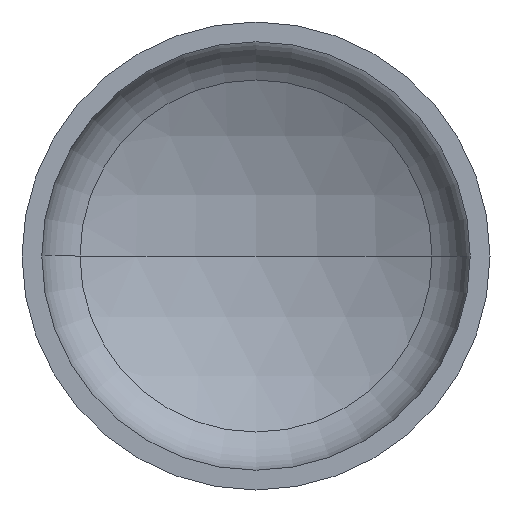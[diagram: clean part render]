
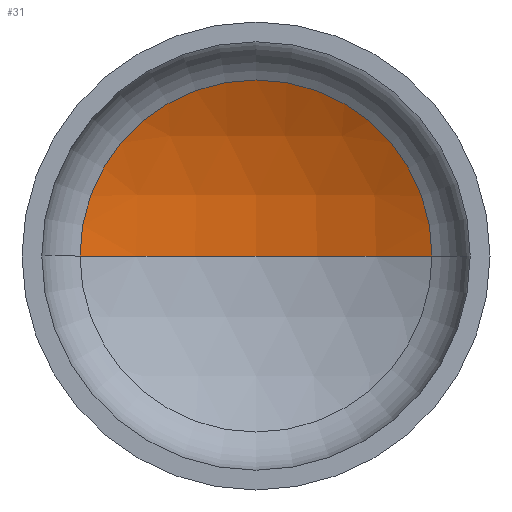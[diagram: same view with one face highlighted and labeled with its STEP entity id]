
A CAD part, front view. The second image highlights one B-rep face of the part: STEP entity #31.
In plain terms, the highlighted spherical face has radius 2080 mm.
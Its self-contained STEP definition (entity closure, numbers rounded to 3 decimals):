
#1 = AXIS2_PLACEMENT_3D ( 'NONE', #179, #403, #287 ) ;
#3 = EDGE_LOOP ( 'NONE', ( #115, #104, #50 ) ) ;
#5 = DIRECTION ( 'NONE',  ( 0., -1., 0. ) ) ;
#20 = DIRECTION ( 'NONE',  ( 0., 0., -1. ) ) ;
#25 = CARTESIAN_POINT ( 'NONE',  ( 0., -1407.667, 0. ) ) ;
#28 = AXIS2_PLACEMENT_3D ( 'NONE', #25, #20, #223 ) ;
#29 = AXIS2_PLACEMENT_3D ( 'NONE', #228, #5, #285 ) ;
#31 = ADVANCED_FACE ( 'NONE', ( #256 ), #201, .F. ) ;
#50 = ORIENTED_EDGE ( 'NONE', *, *, #83, .T. ) ;
#57 = AXIS2_PLACEMENT_3D ( 'NONE', #266, #370, #296 ) ;
#73 = VERTEX_POINT ( 'NONE', #339 ) ;
#83 = EDGE_CURVE ( 'NONE', #126, #323, #367, .T. ) ;
#85 = EDGE_CURVE ( 'NONE', #73, #126, #293, .T. ) ;
#104 = ORIENTED_EDGE ( 'NONE', *, *, #85, .T. ) ;
#115 = ORIENTED_EDGE ( 'NONE', *, *, #346, .F. ) ;
#126 = VERTEX_POINT ( 'NONE', #209 ) ;
#167 = CARTESIAN_POINT ( 'NONE',  ( -978.095, 428.016, 0. ) ) ;
#179 = CARTESIAN_POINT ( 'NONE',  ( 0., -1407.667, 0. ) ) ;
#201 = SPHERICAL_SURFACE ( 'NONE', #57, 2080. ) ;
#209 = CARTESIAN_POINT ( 'NONE',  ( 978.095, 428.016, 0. ) ) ;
#223 = DIRECTION ( 'NONE',  ( -1., 0., 0. ) ) ;
#228 = CARTESIAN_POINT ( 'NONE',  ( 0., 428.016, 0. ) ) ;
#256 = FACE_OUTER_BOUND ( 'NONE', #3, .T. ) ;
#266 = CARTESIAN_POINT ( 'NONE',  ( 0., -1407.667, 0. ) ) ;
#285 = DIRECTION ( 'NONE',  ( 1., 0., 0. ) ) ;
#287 = DIRECTION ( 'NONE',  ( 1., 0., 0. ) ) ;
#293 = CIRCLE ( 'NONE', #28, 2080. ) ;
#296 = DIRECTION ( 'NONE',  ( -1., 0., 0. ) ) ;
#323 = VERTEX_POINT ( 'NONE', #167 ) ;
#339 = CARTESIAN_POINT ( 'NONE',  ( 0., 672.333, 0. ) ) ;
#346 = EDGE_CURVE ( 'NONE', #73, #323, #391, .T. ) ;
#367 = CIRCLE ( 'NONE', #29, 978.095 ) ;
#370 = DIRECTION ( 'NONE',  ( 0., 0., -1. ) ) ;
#391 = CIRCLE ( 'NONE', #1, 2080. ) ;
#403 = DIRECTION ( 'NONE',  ( 0., 0., 1. ) ) ;
